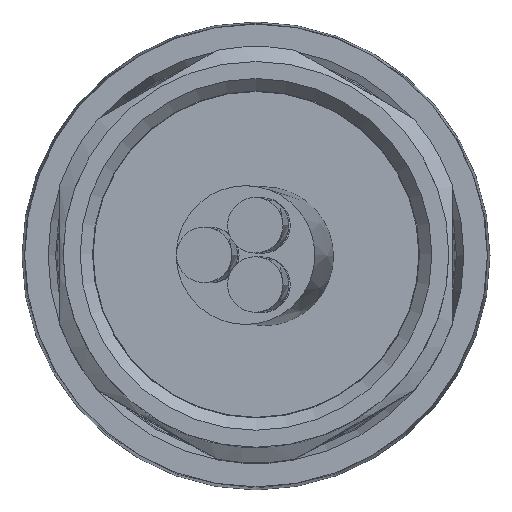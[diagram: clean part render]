
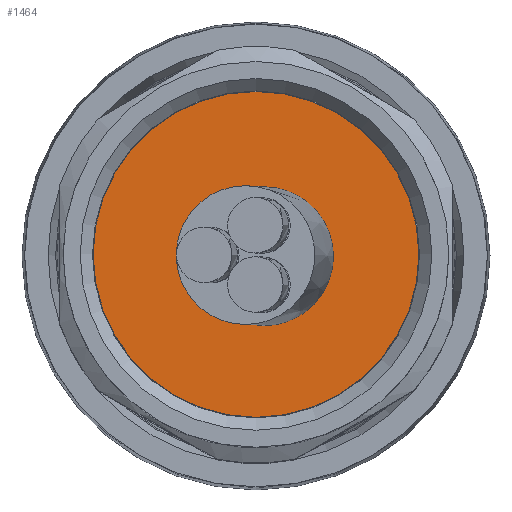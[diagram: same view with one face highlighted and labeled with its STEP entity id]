
A CAD part, top view. The second image highlights one B-rep face of the part: STEP entity #1464.
In plain terms, the highlighted planar face has unit normal (0, 0, 1).
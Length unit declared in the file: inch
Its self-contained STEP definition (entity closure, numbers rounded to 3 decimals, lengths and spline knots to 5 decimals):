
#129 = VERTEX_POINT ( 'NONE', #745 ) ;
#155 = EDGE_CURVE ( 'NONE', #129, #129, #2381, .T. ) ;
#187 = CARTESIAN_POINT ( 'NONE',  ( 0., 0., 3.69582 ) ) ;
#442 = DIRECTION ( 'NONE',  ( 0., -1., 0. ) ) ;
#745 = CARTESIAN_POINT ( 'NONE',  ( 0., -0.44, 3.69582 ) ) ;
#758 = DIRECTION ( 'NONE',  ( 0., -1., 0. ) ) ;
#1042 = AXIS2_PLACEMENT_3D ( 'NONE', #187, #2509, #758 ) ;
#1464 = ADVANCED_FACE ( 'NONE', ( #1512 ), #1955, .T. ) ;
#1512 = FACE_OUTER_BOUND ( 'NONE', #1904, .T. ) ;
#1904 = EDGE_LOOP ( 'NONE', ( #2127 ) ) ;
#1955 = PLANE ( 'NONE',  #1042 ) ;
#1967 = AXIS2_PLACEMENT_3D ( 'NONE', #2355, #2410, #442 ) ;
#2127 = ORIENTED_EDGE ( 'NONE', *, *, #155, .T. ) ;
#2355 = CARTESIAN_POINT ( 'NONE',  ( 0., 0., 3.69582 ) ) ;
#2381 = CIRCLE ( 'NONE', #1967, 0.44 ) ;
#2410 = DIRECTION ( 'NONE',  ( 0., 0., 1. ) ) ;
#2509 = DIRECTION ( 'NONE',  ( 0., 0., 1. ) ) ;
